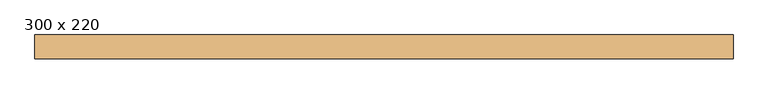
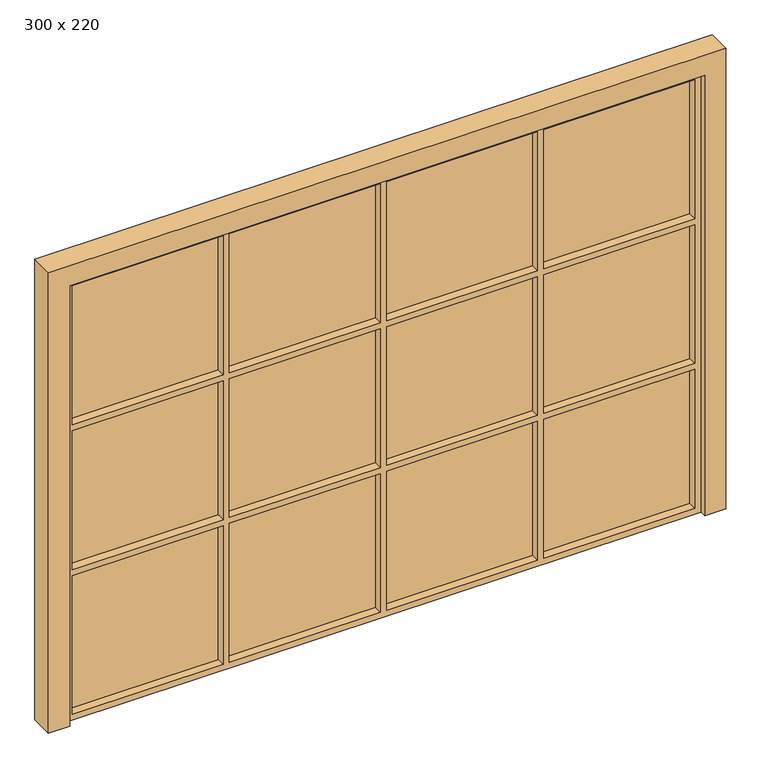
"""IFC4 building model written with IfcOpenShell, lengths in millimetres: door geometry, PORTÃO BASCULANTE - 1 FOLHA : 300 x 220."""

from ifc_helpers import new_model, si_unit, frame, origin, origin_with_axes, place, context, project, spatial, polyline, outline, extrude, source, transform, mapped, element, save


def door_300_x_220_c7f21ab3(model_context):
    return source(origin(), model_context, "Body", "SweptSolid", [
        extrude(outline(polyline([(2200.0, 1580.0), (2200.0, -1420.0), (0.0, -1420.0), (0.0, 1580.0), (2200.0, 1580.0)]), holes=[polyline([(723.3333333, -1390.0), (723.3333333, -677.5), (30.0, -677.5), (30.0, -1390.0), (723.3333333, -1390.0)]), polyline([(723.3333333, 837.5), (723.3333333, 1550.0), (30.0, 1550.0), (30.0, 837.5), (723.3333333, 837.5)]), polyline([(723.3333333, -647.5), (723.3333333, 65.0), (30.0, 65.0), (30.0, -647.5), (723.3333333, -647.5)]), polyline([(723.3333333, 95.0), (723.3333333, 807.5), (30.0, 807.5), (30.0, 95.0), (723.3333333, 95.0)]), polyline([(1446.6666667, -1390.0), (1446.6666667, -677.5), (753.3333333, -677.5), (753.3333333, -1390.0), (1446.6666667, -1390.0)]), polyline([(1446.6666667, 837.5), (1446.6666667, 1550.0), (753.3333333, 1550.0), (753.3333333, 837.5), (1446.6666667, 837.5)]), polyline([(1446.6666667, -647.5), (1446.6666667, 65.0), (753.3333333, 65.0), (753.3333333, -647.5), (1446.6666667, -647.5)]), polyline([(1446.6666667, 95.0), (1446.6666667, 807.5), (753.3333333, 807.5), (753.3333333, 95.0), (1446.6666667, 95.0)]), polyline([(2170.0, -1390.0), (2170.0, -677.5), (1476.6666667, -677.5), (1476.6666667, -1390.0), (2170.0, -1390.0)]), polyline([(2170.0, 837.5), (2170.0, 1550.0), (1476.6666667, 1550.0), (1476.6666667, 837.5), (2170.0, 837.5)]), polyline([(2170.0, -647.5), (2170.0, 65.0), (1476.6666667, 65.0), (1476.6666667, -647.5), (2170.0, -647.5)]), polyline([(2170.0, 95.0), (2170.0, 807.5), (1476.6666667, 807.5), (1476.6666667, 95.0), (2170.0, 95.0)])]), frame((0.0, -25.0, 0.0), z_axis=(0.0, 1.0, 0.0), x_axis=(0.0, 0.0, 1.0)), (0.0, 0.0, 1.0), 40.0),
        extrude(outline(polyline([(1580.0, 25.0), (1580.0, 15.0), (-1420.0, 15.0), (-1420.0, 25.0), (1580.0, 25.0)])), origin_with_axes(), (0.0, 0.0, 1.0), 2200.0),
        extrude(outline(polyline([(0.0, -1520.0), (0.0, -1420.0), (2200.0, -1420.0), (2200.0, 1580.0), (0.0, 1580.0), (0.0, 1680.0), (2300.0, 1680.0), (2300.0, -1520.0), (0.0, -1520.0)])), frame((0.0, -55.0, 0.0), z_axis=(0.0, 1.0, 0.0), x_axis=(0.0, 0.0, 1.0)), (0.0, 0.0, 1.0), 110.0),
    ])


if __name__ == "__main__":
    model = new_model("IFC4")
    model_context = context("Model", 3, world=origin())
    ifc_project = project(units=[si_unit("LENGTHUNIT", "METRE", prefix="MILLI")], contexts=[model_context])
    site = spatial("IfcSite", under=ifc_project)
    building = spatial("IfcBuilding", under=site)
    placement = place(None, origin())
    door_300_x_220_shape = door_300_x_220_c7f21ab3(model_context)
    element("IfcDoor", 1, ObjectType="PORTÃO BASCULANTE - 1 FOLHA : 300 x 220", at=placement, inside=building, context=model_context, shape_type="MappedRepresentation", body=[
        mapped(door_300_x_220_shape, transform((0.0, 0.0, 0.0), x_axis=(1.0, 0.0, 0.0), y_axis=(0.0, 1.0, 0.0), z_axis=(0.0, 0.0, 1.0))),
    ])
    save(model, "model.ifc")
